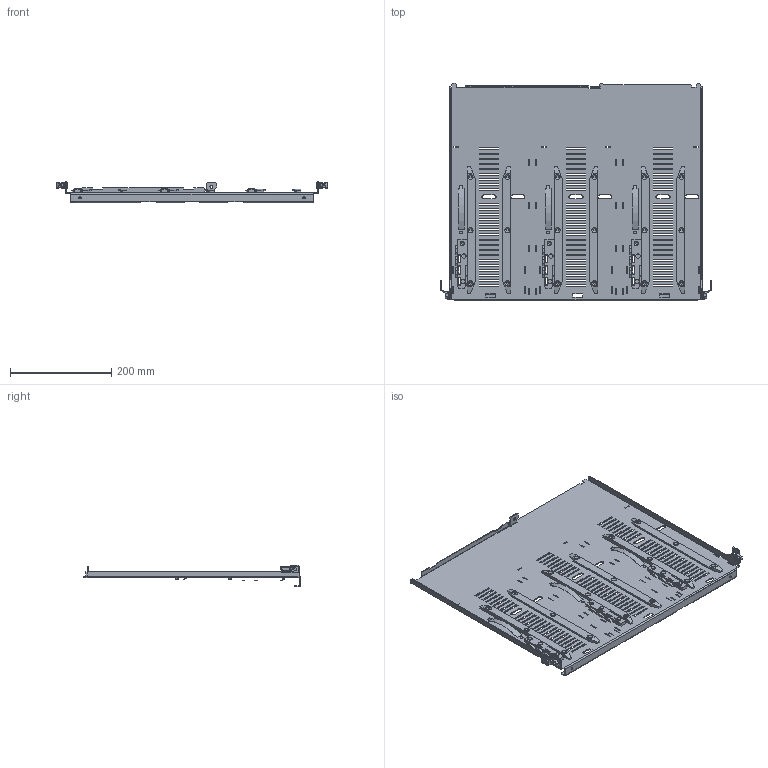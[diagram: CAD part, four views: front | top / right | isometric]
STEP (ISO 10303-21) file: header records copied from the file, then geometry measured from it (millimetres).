
FILE_DESCRIPTION(('CAx-IF Rec.Pracs.---Model Styling and Organization---1.2---2011-12-15','CAx-IF Rec.Pracs.---Geometric and Assembly Validation Properties---4.1---2014-06-16','CAx-IF Rec.Pracs.---PMI Polyline Presentation---2.0---2013-05-24'),'2;1');
FILE_NAME('R5M2WXM3.stp','2021-05-05T12:44:18+03:00',(''),(''),'STEP Interface 4.4 by CT CoreTechnologie','3D_Evolution4.4 by CT CoreTechnologie','');
FILE_SCHEMA(('AUTOMOTIVE_DESIGN { 1 0 10303 214 1 1 1 1 }'));
Length unit declared in the file: millimetre
Products named in the file (10): R5M2WXM3; AC00C485; M6 x 16-DIN 7991 ISR_thread; RB.1167.00.00.0 ÑÁ_-02 (XM3); M5x12-DIN 7500M ISR_stright; RB.1167.00.02.0; RB.1167.00.03.0_-00; RB.1505.00.02.0; Ì4-GOST R 50273-92 (DIN 985)_stright DIN EN ISO 10511 - M4 - N; RB.1167.00.01.0_-02
Assembly tree (46 placements, depth 3):
  R5M2WXM3
    AC00C485  x2
    M6 x 16-DIN 7991 ISR_thread  x2
    RB.1167.00.00.0 ÑÁ_-02 (XM3)
      M5x12-DIN 7500M ISR_stright  x18
      RB.1167.00.02.0  x3
      RB.1167.00.03.0_-00  x4
      RB.1505.00.02.0  x6
      Ì4-GOST R 50273-92 (DIN 985)_stright DIN EN ISO 10511 - M4 - N  x9
      RB.1167.00.01.0_-02
Bounding box: 537 x 430 x 43 mm (x, y, z)
Surface area: 567497 mm2 (no closed solid volume)
Topology: 0 solids, 52 shells, 1402 faces, 3681 edges, 2398 vertices
Faces by surface type: plane 1068, cylinder 256, bspline 78
Entity records: 31295 total; most frequent: CARTESIAN_POINT 5882, ORIENTED_EDGE 5148, DIRECTION 4678, EDGE_CURVE 2576, VECTOR 2306, LINE 2306, VERTEX_POINT 1692, EDGE_LOOP 1202
